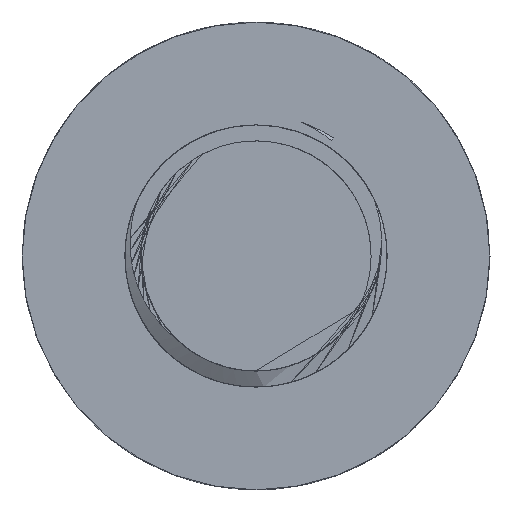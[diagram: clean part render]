
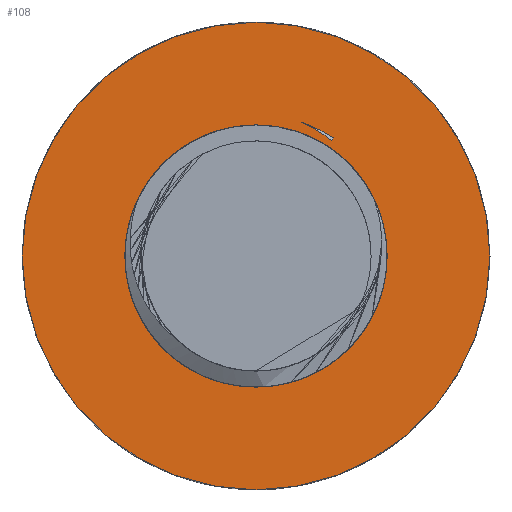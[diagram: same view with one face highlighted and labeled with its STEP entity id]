
A CAD part, left-side view. The second image highlights one B-rep face of the part: STEP entity #108.
In plain terms, the highlighted planar face has unit normal (-1, 0, 0).
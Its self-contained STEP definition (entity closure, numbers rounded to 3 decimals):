
#69=PLANE('',#433);
#83=B_SPLINE_CURVE_WITH_KNOTS('',3,(#2820,#2821,#2822,#2823),
 .UNSPECIFIED.,.F.,.F.,(4,4),(0.,1.),.UNSPECIFIED.);
#84=B_SPLINE_CURVE_WITH_KNOTS('',3,(#2828,#2829,#2830,#2831),
 .UNSPECIFIED.,.F.,.F.,(4,4),(0.,1.),.UNSPECIFIED.);
#108=ADVANCED_FACE('',(#164,#165,#166),#69,.T.);
#142=LINE('',#2826,#152);
#152=VECTOR('',#482,1.);
#164=FACE_BOUND('',#188,.T.);
#165=FACE_BOUND('',#189,.T.);
#166=FACE_BOUND('',#190,.T.);
#188=EDGE_LOOP('',(#239,#240,#241));
#189=EDGE_LOOP('',(#242));
#190=EDGE_LOOP('',(#243));
#239=ORIENTED_EDGE('',*,*,#374,.F.);
#240=ORIENTED_EDGE('',*,*,#375,.T.);
#241=ORIENTED_EDGE('',*,*,#376,.F.);
#242=ORIENTED_EDGE('',*,*,#377,.T.);
#243=ORIENTED_EDGE('',*,*,#373,.F.);
#334=VERTEX_POINT('',#2818);
#335=VERTEX_POINT('',#2824);
#336=VERTEX_POINT('',#2825);
#337=VERTEX_POINT('',#2827);
#338=VERTEX_POINT('',#2833);
#373=EDGE_CURVE('',#334,#334,#413,.T.);
#374=EDGE_CURVE('',#335,#336,#83,.T.);
#375=EDGE_CURVE('',#335,#337,#142,.T.);
#376=EDGE_CURVE('',#336,#337,#84,.T.);
#377=EDGE_CURVE('',#338,#338,#414,.T.);
#413=CIRCLE('',#430,1.4);
#414=CIRCLE('',#432,2.498);
#430=AXIS2_PLACEMENT_3D('',#2817,#478,#479);
#432=AXIS2_PLACEMENT_3D('',#2832,#483,#484);
#433=AXIS2_PLACEMENT_3D('',#2834,#485,#486);
#478=DIRECTION('',(-1.,0.,0.));
#479=DIRECTION('',(0.,0.,1.));
#482=DIRECTION('',(0.,0.55,-0.835));
#483=DIRECTION('',(-1.,0.,0.));
#484=DIRECTION('',(0.,0.,1.));
#485=DIRECTION('',(-1.,0.,0.));
#486=DIRECTION('',(0.,0.,1.));
#2817=CARTESIAN_POINT('',(745.,56.667,220.));
#2818=CARTESIAN_POINT('',(745.,56.667,221.4));
#2820=CARTESIAN_POINT('',(745.,55.836,221.261));
#2821=CARTESIAN_POINT('',(745.,55.943,221.331));
#2822=CARTESIAN_POINT('',(745.,56.059,221.388));
#2823=CARTESIAN_POINT('',(745.,56.18,221.43));
#2824=CARTESIAN_POINT('',(745.,55.836,221.261));
#2825=CARTESIAN_POINT('',(745.,56.18,221.43));
#2826=CARTESIAN_POINT('',(745.,56.024,220.977));
#2827=CARTESIAN_POINT('',(745.,55.856,221.232));
#2828=CARTESIAN_POINT('',(745.,56.18,221.43));
#2829=CARTESIAN_POINT('',(745.,56.065,221.378));
#2830=CARTESIAN_POINT('',(745.,55.955,221.311));
#2831=CARTESIAN_POINT('',(745.,55.856,221.232));
#2832=CARTESIAN_POINT('',(745.,56.667,220.));
#2833=CARTESIAN_POINT('',(745.,56.667,222.498));
#2834=CARTESIAN_POINT('',(745.,56.667,221.4));
